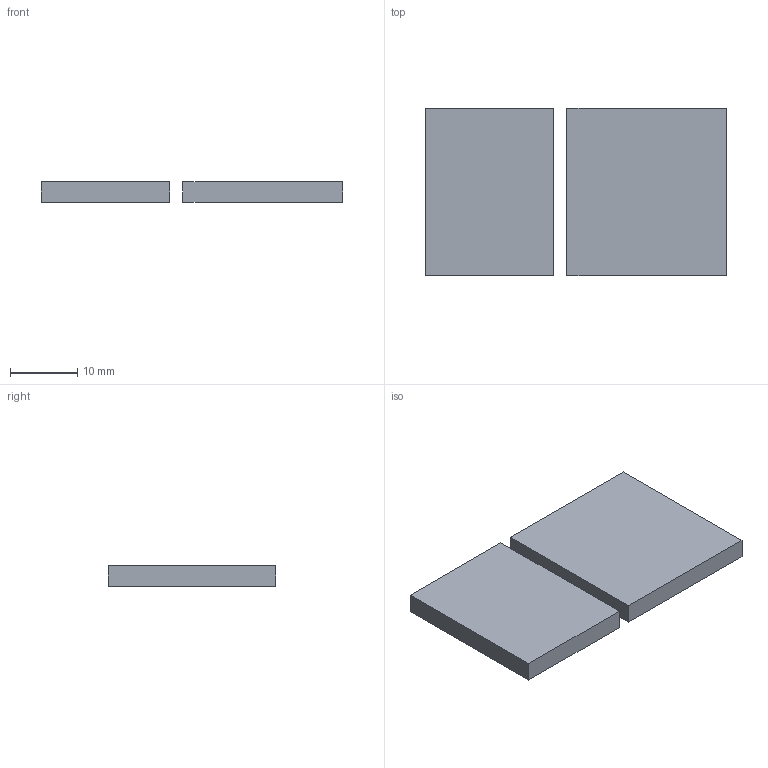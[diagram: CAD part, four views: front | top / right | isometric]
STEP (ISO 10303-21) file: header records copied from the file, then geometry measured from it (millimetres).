
FILE_DESCRIPTION(('STEP AP203'), '1');
FILE_NAME('ïðîêëàäêà ïîäâåñêè âåðõíåé äåêè', '', ('UNSPECIFIED'), ('UNSPECIFIED'), 'ASCON STEP Converter 1.3', 'ASCON Math Kernel', '');
FILE_SCHEMA(('CONFIG_CONTROL_DESIGN'));
Length unit declared in the file: millimetre
Bounding box: 45 x 25 x 3 mm (x, y, z)
Volume: 3225 mm3; surface area: 2708 mm2
Topology: 2 solids, 2 shells, 12 faces, 24 edges, 16 vertices
Faces by surface type: plane 12
Entity records: 454 total; most frequent: CARTESIAN_POINT 53, DIRECTION 50, ORIENTED_EDGE 48, EDGE_CURVE 24, LINE 24, VECTOR 24, VERTEX_POINT 16, COLOUR_RGB 14
